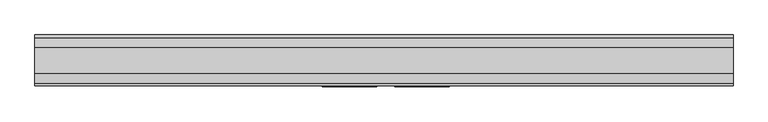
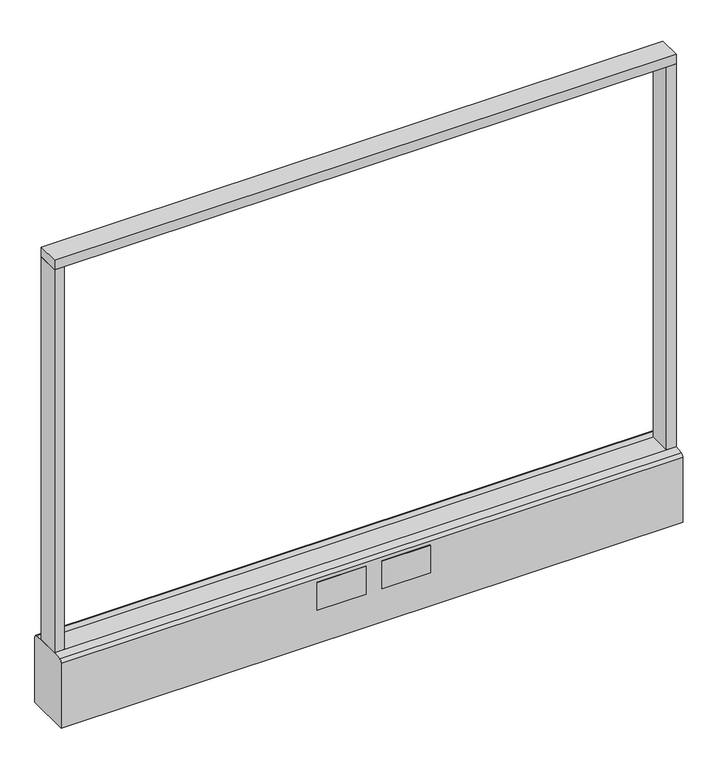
"""IFC4 building model written with IfcOpenShell, lengths in millimetres: furniture geometry."""

from ifc_helpers import new_model, si_unit, point, frame, frame_2d, origin, origin_with_axes, place, context, project, spatial, polyline, circle_curve, trimmed, segment, composite_curve, outline, extrude, source, transform, mapped, element, save


def furniture_2b4b025d(model_context):
    return source(origin(), model_context, "Body", "SweptSolid", [
        extrude(outline(polyline([(609.6, -22.225), (-609.6, -22.225), (-609.6, 22.225), (609.6, 22.225), (609.6, -22.225)])), frame((0.0, 0.0, 946.15), z_axis=(0.0, 0.0, 1.0), x_axis=(1.0, 0.0, 0.0)), (0.0, 0.0, 1.0), 19.05),
        extrude(outline(composite_curve([segment(trimmed(circle_curve(frame_2d((-533.4, 0.0)), 23.415625), [point((-556.815625, 0.0))], [point((-509.984375, 0.0))], False, "CARTESIAN"), True, "CONTINUOUS"), segment(trimmed(circle_curve(frame_2d((-533.4, 0.0)), 23.415625), [point((-509.984375, 0.0))], [point((-556.815625, 0.0))], False, "CARTESIAN"), True, "CONTINUOUS")], self_intersect=False)), origin_with_axes(), (0.0, 0.0, 1.0), 6.35),
        extrude(outline(composite_curve([segment(trimmed(circle_curve(frame_2d((533.4, 0.0)), 23.415625), [point((509.984375, 0.0))], [point((556.815625, 0.0))], False, "CARTESIAN"), True, "CONTINUOUS"), segment(trimmed(circle_curve(frame_2d((533.4, 0.0)), 23.415625), [point((556.815625, 0.0))], [point((509.984375, 0.0))], False, "CARTESIAN"), True, "CONTINUOUS")], self_intersect=False)), origin_with_axes(), (0.0, 0.0, 1.0), 6.35),
        extrude(outline(polyline([(-590.5500091, -22.225), (-609.6, -22.225), (-609.6, 22.225), (-590.5500091, 22.225), (-590.5500091, -22.225)])), frame((0.0, 0.0, 152.4), z_axis=(0.0, 0.0, 1.0), x_axis=(1.0, 0.0, 0.0)), (0.0, 0.0, 1.0), 793.75),
        extrude(outline(polyline([(609.6, -22.225), (590.5500091, -22.225), (590.5500091, 22.225), (609.6, 22.225), (609.6, -22.225)])), frame((0.0, 0.0, 152.4), z_axis=(0.0, 0.0, 1.0), x_axis=(1.0, 0.0, 0.0)), (0.0, 0.0, 1.0), 793.75),
        extrude(outline(composite_curve([segment(polyline([(-22.225, 152.4), (22.225, 152.4), (39.43219, 149.94183)]), True, "CONTINUOUS"), segment(trimmed(circle_curve(frame_2d((38.605678, 144.1562464)), 5.844322), [point((39.43219, 149.94183))], [point((44.45, 144.1562464))], False, "CARTESIAN"), True, "CONTINUOUS"), segment(polyline([(44.45, 144.1562464), (44.45, 9.525), (-44.4433083, 9.525), (-44.4433083, 144.1572033)]), True, "CONTINUOUS"), segment(trimmed(circle_curve(frame_2d((-38.5989863, 144.1572033)), 5.844322), [point((-44.4433083, 144.1572033))], [point((-39.4222979, 149.9432432))], False, "CARTESIAN"), True, "CONTINUOUS"), segment(polyline([(-39.4222979, 149.9432432), (-22.225, 152.4)]), True, "CONTINUOUS")], self_intersect=False)), frame((-609.6, 0.0, 0.0), z_axis=(1.0, 0.0, 0.0), x_axis=(0.0, 1.0, 0.0)), (0.0, 0.0, 1.0), 1219.2),
        extrude(outline(polyline([(114.3, -46.0375), (19.05, -46.0375), (19.05, -44.45), (114.3, -44.45), (114.3, -46.0375)])), frame((0.0, 0.0, 79.1718), z_axis=(0.0, 0.0, 1.0), x_axis=(1.0, 0.0, 0.0)), (0.0, 0.0, 1.0), 57.15),
        extrude(outline(polyline([(-12.7, -46.0375), (-107.95, -46.0375), (-107.95, -44.45), (-12.7, -44.45), (-12.7, -46.0375)])), frame((0.0, 0.0, 79.1718), z_axis=(0.0, 0.0, 1.0), x_axis=(1.0, 0.0, 0.0)), (0.0, 0.0, 1.0), 57.15),
        extrude(outline(composite_curve([segment(trimmed(circle_curve(frame_2d((-533.4, 0.0)), 5.55625), [point((-538.95625, 0.0))], [point((-527.84375, 0.0))], False, "CARTESIAN"), True, "CONTINUOUS"), segment(trimmed(circle_curve(frame_2d((-533.4, 0.0)), 5.55625), [point((-527.84375, 0.0))], [point((-538.95625, 0.0))], False, "CARTESIAN"), True, "CONTINUOUS")], self_intersect=False)), frame((0.0, 0.0, 6.35), z_axis=(0.0, 0.0, 1.0), x_axis=(1.0, 0.0, 0.0)), (0.0, 0.0, 1.0), 3.175),
        extrude(outline(composite_curve([segment(trimmed(circle_curve(frame_2d((533.4, 0.0)), 5.55625), [point((527.84375, 0.0))], [point((538.95625, 0.0))], False, "CARTESIAN"), True, "CONTINUOUS"), segment(trimmed(circle_curve(frame_2d((533.4, 0.0)), 5.55625), [point((538.95625, 0.0))], [point((527.84375, 0.0))], False, "CARTESIAN"), True, "CONTINUOUS")], self_intersect=False)), frame((0.0, 0.0, 6.35), z_axis=(0.0, 0.0, 1.0), x_axis=(1.0, 0.0, 0.0)), (0.0, 0.0, 1.0), 3.175),
    ])


if __name__ == "__main__":
    model = new_model("IFC4")
    model_context = context("Model", 3, world=origin())
    ifc_project = project(units=[si_unit("LENGTHUNIT", "METRE", prefix="MILLI")], contexts=[model_context])
    site = spatial("IfcSite", under=ifc_project)
    building = spatial("IfcBuilding", under=site)
    placement = place(None, origin())
    furniture_shape = furniture_2b4b025d(model_context)
    element("IfcFurniture", 1, ObjectType="HermanMiller_Ethospace_E1109_Frame : 38\"H x 48\"W-H", at=placement, inside=building, context=model_context, shape_type="MappedRepresentation", body=[
        mapped(furniture_shape, transform((0.0, 0.0, 0.0), x_axis=(1.0, 0.0, 0.0), y_axis=(0.0, 1.0, 0.0), z_axis=(0.0, 0.0, 1.0))),
    ])
    save(model, "model.ifc")
